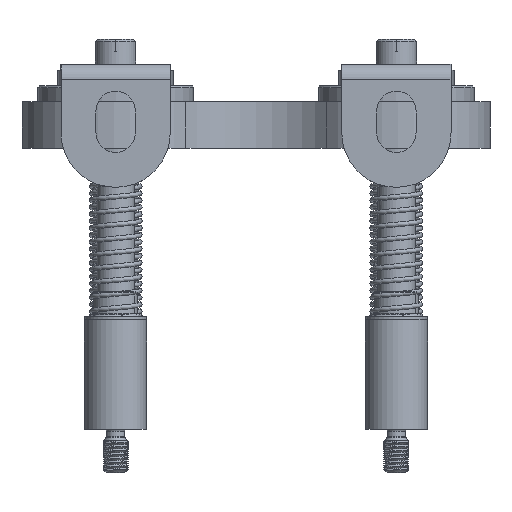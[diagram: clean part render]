
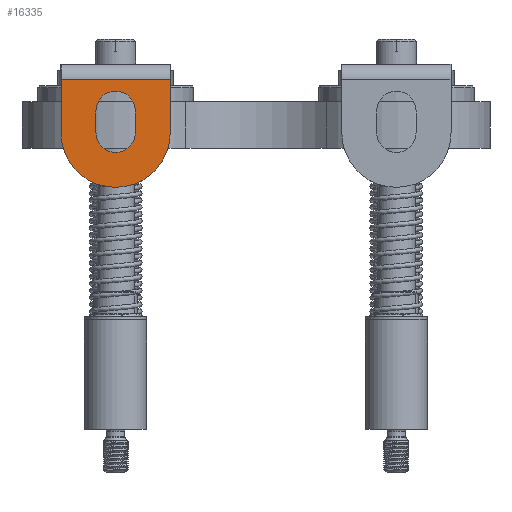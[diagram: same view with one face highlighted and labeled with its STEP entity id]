
A CAD part, left-side view. The second image highlights one B-rep face of the part: STEP entity #16335.
In plain terms, the highlighted planar face has unit normal (-1, 0, 0).
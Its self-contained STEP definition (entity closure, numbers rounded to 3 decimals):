
#95 = DIRECTION ( 'NONE',  ( 0., 0., 1. ) ) ;
#152 = CIRCLE ( 'NONE', #23398, 6.3 ) ;
#208 = DIRECTION ( 'NONE',  ( 0., 1., 0. ) ) ;
#619 = DIRECTION ( 'NONE',  ( 0., 0., 1. ) ) ;
#2122 = CARTESIAN_POINT ( 'NONE',  ( -401.5, 45., 5. ) ) ;
#2690 = VECTOR ( 'NONE', #7059, 1000. ) ;
#2810 = EDGE_CURVE ( 'NONE', #5952, #13304, #152, .T. ) ;
#2832 = EDGE_CURVE ( 'NONE', #13304, #24482, #27484, .T. ) ;
#2903 = CARTESIAN_POINT ( 'NONE',  ( -401.5, 38.7, 5. ) ) ;
#3233 = VECTOR ( 'NONE', #12444, 1000. ) ;
#3328 = CARTESIAN_POINT ( 'NONE',  ( -401.5, 27.5, 25. ) ) ;
#4315 = CARTESIAN_POINT ( 'NONE',  ( -401.5, 62.5, 22. ) ) ;
#4454 = CARTESIAN_POINT ( 'NONE',  ( -401.5, 62.5, 5. ) ) ;
#4828 = FACE_BOUND ( 'NONE', #29185, .T. ) ;
#4916 = CARTESIAN_POINT ( 'NONE',  ( -401.5, 51.3, 12. ) ) ;
#5007 = CARTESIAN_POINT ( 'NONE',  ( -401.5, 45., 22. ) ) ;
#5154 = LINE ( 'NONE', #12661, #28070 ) ;
#5952 = VERTEX_POINT ( 'NONE', #14407 ) ;
#6156 = AXIS2_PLACEMENT_3D ( 'NONE', #17378, #31245, #95 ) ;
#6288 = ORIENTED_EDGE ( 'NONE', *, *, #20455, .F. ) ;
#6614 = AXIS2_PLACEMENT_3D ( 'NONE', #2122, #12012, #27204 ) ;
#6840 = ORIENTED_EDGE ( 'NONE', *, *, #22429, .T. ) ;
#6967 = FACE_OUTER_BOUND ( 'NONE', #30529, .T. ) ;
#7020 = EDGE_CURVE ( 'NONE', #9432, #26276, #29199, .T. ) ;
#7059 = DIRECTION ( 'NONE',  ( 0., 0., -1. ) ) ;
#7452 = PLANE ( 'NONE',  #6614 ) ;
#7839 = ORIENTED_EDGE ( 'NONE', *, *, #31027, .T. ) ;
#8588 = ORIENTED_EDGE ( 'NONE', *, *, #2810, .F. ) ;
#9432 = VERTEX_POINT ( 'NONE', #17852 ) ;
#11377 = CIRCLE ( 'NONE', #6156, 6.3 ) ;
#11623 = LINE ( 'NONE', #4454, #2690 ) ;
#12012 = DIRECTION ( 'NONE',  ( -1., 0., 0. ) ) ;
#12444 = DIRECTION ( 'NONE',  ( 0., 0., -1. ) ) ;
#12457 = ORIENTED_EDGE ( 'NONE', *, *, #7020, .T. ) ;
#12661 = CARTESIAN_POINT ( 'NONE',  ( -401.5, 38.7, 12. ) ) ;
#12770 = DIRECTION ( 'NONE',  ( 0., 0., 1. ) ) ;
#12773 = EDGE_CURVE ( 'NONE', #19167, #9432, #30267, .T. ) ;
#13256 = CARTESIAN_POINT ( 'NONE',  ( -401.5, 27.5, 5. ) ) ;
#13304 = VERTEX_POINT ( 'NONE', #4916 ) ;
#13581 = EDGE_CURVE ( 'NONE', #18458, #5952, #5154, .T. ) ;
#14290 = DIRECTION ( 'NONE',  ( -1., 0., 0. ) ) ;
#14407 = CARTESIAN_POINT ( 'NONE',  ( -401.5, 38.7, 12. ) ) ;
#14690 = ORIENTED_EDGE ( 'NONE', *, *, #13581, .F. ) ;
#16097 = VECTOR ( 'NONE', #12770, 1000. ) ;
#16335 = ADVANCED_FACE ( 'NONE', ( #4828, #6967 ), #7452, .T. ) ;
#17266 = DIRECTION ( 'NONE',  ( -1., 0., 0. ) ) ;
#17378 = CARTESIAN_POINT ( 'NONE',  ( -401.5, 45., 5. ) ) ;
#17653 = AXIS2_PLACEMENT_3D ( 'NONE', #23991, #14290, #24145 ) ;
#17852 = CARTESIAN_POINT ( 'NONE',  ( -401.5, 27.5, 22. ) ) ;
#18458 = VERTEX_POINT ( 'NONE', #2903 ) ;
#19167 = VERTEX_POINT ( 'NONE', #13256 ) ;
#20173 = CARTESIAN_POINT ( 'NONE',  ( -401.5, 45., 12. ) ) ;
#20455 = EDGE_CURVE ( 'NONE', #24482, #18458, #11377, .T. ) ;
#22429 = EDGE_CURVE ( 'NONE', #26276, #24996, #11623, .T. ) ;
#22600 = CARTESIAN_POINT ( 'NONE',  ( -401.5, 51.3, 12. ) ) ;
#23227 = VECTOR ( 'NONE', #208, 1000. ) ;
#23398 = AXIS2_PLACEMENT_3D ( 'NONE', #20173, #17266, #619 ) ;
#23991 = CARTESIAN_POINT ( 'NONE',  ( -401.5, 45., 5. ) ) ;
#24145 = DIRECTION ( 'NONE',  ( 0., 0., 1. ) ) ;
#24482 = VERTEX_POINT ( 'NONE', #24733 ) ;
#24733 = CARTESIAN_POINT ( 'NONE',  ( -401.5, 51.3, 5. ) ) ;
#24996 = VERTEX_POINT ( 'NONE', #30154 ) ;
#25440 = CIRCLE ( 'NONE', #17653, 17.5 ) ;
#26276 = VERTEX_POINT ( 'NONE', #4315 ) ;
#27204 = DIRECTION ( 'NONE',  ( 0., 0., 1. ) ) ;
#27484 = LINE ( 'NONE', #22600, #3233 ) ;
#27929 = ORIENTED_EDGE ( 'NONE', *, *, #2832, .F. ) ;
#28070 = VECTOR ( 'NONE', #30313, 1000. ) ;
#29185 = EDGE_LOOP ( 'NONE', ( #8588, #14690, #6288, #27929 ) ) ;
#29199 = LINE ( 'NONE', #5007, #23227 ) ;
#30154 = CARTESIAN_POINT ( 'NONE',  ( -401.5, 62.5, 5. ) ) ;
#30267 = LINE ( 'NONE', #3328, #16097 ) ;
#30313 = DIRECTION ( 'NONE',  ( 0., 0., 1. ) ) ;
#30529 = EDGE_LOOP ( 'NONE', ( #30723, #12457, #6840, #7839 ) ) ;
#30723 = ORIENTED_EDGE ( 'NONE', *, *, #12773, .T. ) ;
#31027 = EDGE_CURVE ( 'NONE', #24996, #19167, #25440, .T. ) ;
#31245 = DIRECTION ( 'NONE',  ( -1., 0., 0. ) ) ;
